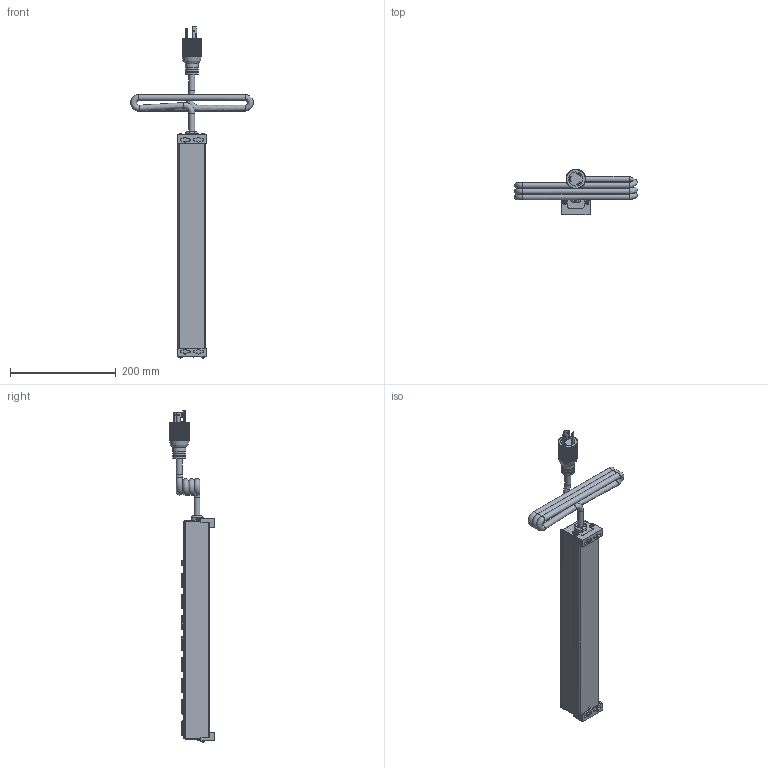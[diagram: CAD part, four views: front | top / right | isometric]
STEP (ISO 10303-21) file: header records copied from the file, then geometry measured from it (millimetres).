
FILE_DESCRIPTION((''),'2;1');
FILE_NAME('E:\Dutton\Manufacturing\drawings\Updated 2009\POWER BARS\1589 series\STEP''s\1589H8C1.stp','2009-12-29T08:55:39',('tfoster'),(''),'Autodesk Inventor 2010','Autodesk Inventor 2010','');
FILE_SCHEMA(('AUTOMOTIVE_DESIGN { 1 0 10303 214 1 1 1 1 }'));
Products named in the file (13): 1589H8C1; 7,8 Outlet extrusion; 8 outlet; #6x0.5 type A; Reset Switch; round head 1-way 8-32 x 0.5 screw; toothwasher; 20 amp Twist Cored; Power Switch Assembly; Power Switch; Power Switch pt; 20 Amp Receptacle; Mounting Bracket
Assembly tree (23 placements, depth 3):
  1589H8C1
    7,8 Outlet extrusion
    8 outlet
    #6x0.5 type A  x4
    Reset Switch
    round head 1-way 8-32 x 0.5 screw
    toothwasher
    20 amp Twist Cored
    Power Switch Assembly
      Power Switch
      Power Switch pt
    20 Amp Receptacle  x8
    Mounting Bracket  x2
Bounding box: 232.04 x 84.81 x 627.31 mm (x, y, z)
Volume: 468163.7 mm3; surface area: 305440.5 mm2
Topology: 22 solids, 22 shells, 1382 faces, 3994 edges, 2654 vertices
Faces by surface type: plane 921, cylinder 270, bspline 99, cone 39, sphere 37, torus 16
Full cylindrical faces by diameter (mm): 1 x2, 1.803 x3, 1.905 x2, 2.794 x3, 4.3 x1, 4.648 x5, 7.849 x1, 11 x4, 12.5 x1, 22.606 x2, 25.146 x3, 26.67 x1
Entity records: 30640 total; most frequent: CARTESIAN_POINT 9111, ORIENTED_EDGE 4612, DIRECTION 4098, EDGE_CURVE 2306, VERTEX_POINT 1575, VECTOR 1462, LINE 1462, AXIS2_PLACEMENT_3D 1318
